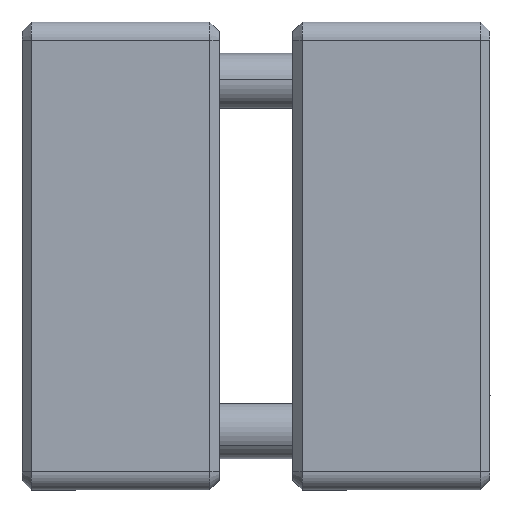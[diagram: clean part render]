
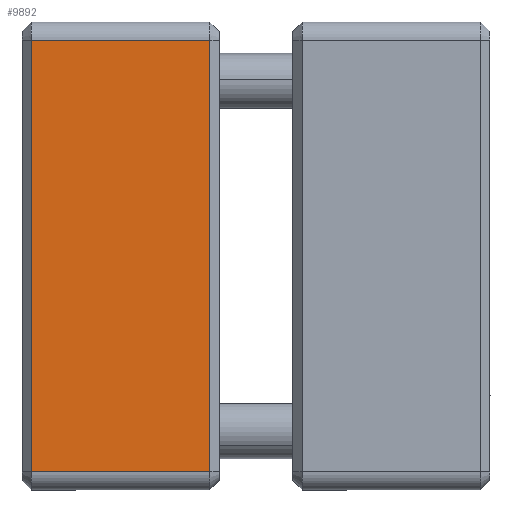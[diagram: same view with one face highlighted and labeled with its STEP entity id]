
A CAD part, left-side view. The second image highlights one B-rep face of the part: STEP entity #9892.
In plain terms, the highlighted planar face has unit normal (-1, 0, 0).
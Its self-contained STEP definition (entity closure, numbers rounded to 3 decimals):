
#594 = ORIENTED_EDGE ( 'NONE', *, *, #4921, .T. ) ;
#1480 = PLANE ( 'NONE',  #3279 ) ;
#1607 = ORIENTED_EDGE ( 'NONE', *, *, #12354, .T. ) ;
#2640 = CARTESIAN_POINT ( 'NONE',  ( -12.7, 12.2, -12.7 ) ) ;
#3075 = VERTEX_POINT ( 'NONE', #14402 ) ;
#3279 = AXIS2_PLACEMENT_3D ( 'NONE', #5743, #18270, #6765 ) ;
#3982 = CARTESIAN_POINT ( 'NONE',  ( -12.7, 12.2, 11.7 ) ) ;
#3989 = CARTESIAN_POINT ( 'NONE',  ( -12.7, 12.7, 11.7 ) ) ;
#4878 = ORIENTED_EDGE ( 'NONE', *, *, #15291, .T. ) ;
#4921 = EDGE_CURVE ( 'NONE', #12930, #3075, #13889, .T. ) ;
#5060 = DIRECTION ( 'NONE',  ( 0., 0., -1. ) ) ;
#5477 = CARTESIAN_POINT ( 'NONE',  ( -12.7, 12.7, -11.7 ) ) ;
#5743 = CARTESIAN_POINT ( 'NONE',  ( -12.7, 12.7, -12.7 ) ) ;
#6765 = DIRECTION ( 'NONE',  ( 0., 0., -1. ) ) ;
#8370 = VECTOR ( 'NONE', #17272, 1000. ) ;
#9892 = ADVANCED_FACE ( 'NONE', ( #16789 ), #1480, .T. ) ;
#10243 = VECTOR ( 'NONE', #5060, 1000. ) ;
#10507 = CARTESIAN_POINT ( 'NONE',  ( -12.7, 2.5, 11.7 ) ) ;
#11305 = VECTOR ( 'NONE', #15422, 1000. ) ;
#11595 = CARTESIAN_POINT ( 'NONE',  ( -12.7, 2.5, -12.7 ) ) ;
#11643 = VECTOR ( 'NONE', #14389, 1000. ) ;
#12354 = EDGE_CURVE ( 'NONE', #13148, #12930, #16719, .T. ) ;
#12852 = EDGE_CURVE ( 'NONE', #3075, #13372, #17672, .T. ) ;
#12930 = VERTEX_POINT ( 'NONE', #3982 ) ;
#13148 = VERTEX_POINT ( 'NONE', #10507 ) ;
#13372 = VERTEX_POINT ( 'NONE', #16962 ) ;
#13381 = EDGE_LOOP ( 'NONE', ( #1607, #594, #16998, #4878 ) ) ;
#13889 = LINE ( 'NONE', #2640, #10243 ) ;
#14389 = DIRECTION ( 'NONE',  ( 0., 0., 1. ) ) ;
#14402 = CARTESIAN_POINT ( 'NONE',  ( -12.7, 12.2, -11.7 ) ) ;
#15291 = EDGE_CURVE ( 'NONE', #13372, #13148, #16035, .T. ) ;
#15422 = DIRECTION ( 'NONE',  ( 0., -1., 0. ) ) ;
#16035 = LINE ( 'NONE', #11595, #11643 ) ;
#16719 = LINE ( 'NONE', #3989, #8370 ) ;
#16789 = FACE_OUTER_BOUND ( 'NONE', #13381, .T. ) ;
#16962 = CARTESIAN_POINT ( 'NONE',  ( -12.7, 2.5, -11.7 ) ) ;
#16998 = ORIENTED_EDGE ( 'NONE', *, *, #12852, .T. ) ;
#17272 = DIRECTION ( 'NONE',  ( 0., 1., 0. ) ) ;
#17672 = LINE ( 'NONE', #5477, #11305 ) ;
#18270 = DIRECTION ( 'NONE',  ( -1., 0., 0. ) ) ;
